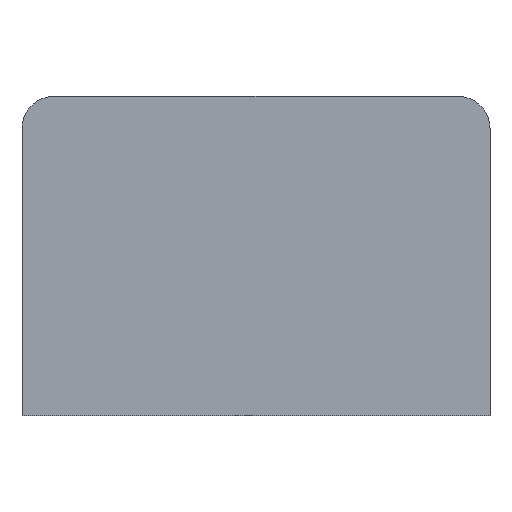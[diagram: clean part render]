
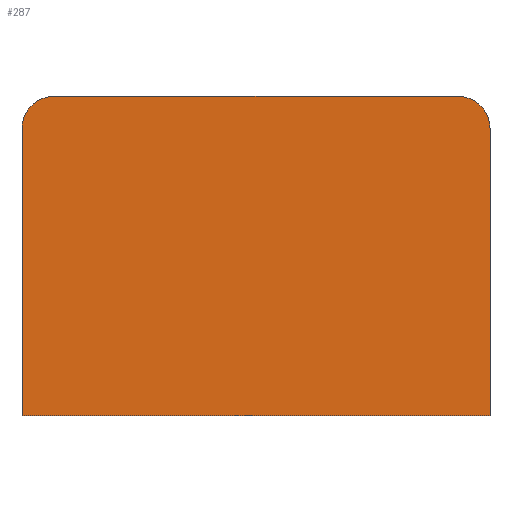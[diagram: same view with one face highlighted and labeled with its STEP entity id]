
A CAD part, front view. The second image highlights one B-rep face of the part: STEP entity #287.
In plain terms, the highlighted planar face has unit normal (0, -1, 0).
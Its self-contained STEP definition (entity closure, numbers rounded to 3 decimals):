
#20=PLANE('',#330);
#35=FACE_OUTER_BOUND('',#50,.T.);
#50=EDGE_LOOP('',(#247,#248,#249,#250,#251,#252));
#56=LINE('',#435,#81);
#65=LINE('',#467,#90);
#69=LINE('',#474,#94);
#76=LINE('',#492,#101);
#81=VECTOR('',#348,10.);
#90=VECTOR('',#377,10.);
#94=VECTOR('',#385,10.);
#101=VECTOR('',#406,10.);
#113=CIRCLE('',#325,7.5);
#115=CIRCLE('',#329,7.5);
#122=VERTEX_POINT('',#432);
#123=VERTEX_POINT('',#434);
#135=VERTEX_POINT('',#464);
#136=VERTEX_POINT('',#466);
#139=VERTEX_POINT('',#484);
#141=VERTEX_POINT('',#489);
#149=EDGE_CURVE('',#122,#123,#56,.T.);
#165=EDGE_CURVE('',#136,#135,#65,.F.);
#169=EDGE_CURVE('',#136,#122,#69,.T.);
#174=EDGE_CURVE('',#123,#139,#113,.T.);
#178=EDGE_CURVE('',#141,#139,#76,.T.);
#180=EDGE_CURVE('',#141,#135,#115,.T.);
#247=ORIENTED_EDGE('',*,*,#165,.T.);
#248=ORIENTED_EDGE('',*,*,#180,.F.);
#249=ORIENTED_EDGE('',*,*,#178,.T.);
#250=ORIENTED_EDGE('',*,*,#174,.F.);
#251=ORIENTED_EDGE('',*,*,#149,.F.);
#252=ORIENTED_EDGE('',*,*,#169,.F.);
#287=ADVANCED_FACE('',(#35),#20,.T.);
#325=AXIS2_PLACEMENT_3D('',#485,#399,#400);
#329=AXIS2_PLACEMENT_3D('',#495,#411,#412);
#330=AXIS2_PLACEMENT_3D('',#496,#413,#414);
#348=DIRECTION('',(0.,0.,1.));
#377=DIRECTION('',(0.,0.,-1.));
#385=DIRECTION('',(-1.,0.,0.));
#399=DIRECTION('center_axis',(0.,1.,0.));
#400=DIRECTION('ref_axis',(-0.707,0.,0.707));
#406=DIRECTION('',(-1.,0.,0.));
#411=DIRECTION('center_axis',(0.,1.,0.));
#412=DIRECTION('ref_axis',(0.707,0.,0.707));
#413=DIRECTION('center_axis',(0.,-1.,0.));
#414=DIRECTION('ref_axis',(0.,0.,1.));
#432=CARTESIAN_POINT('',(-15.,-28.767,-8.));
#434=CARTESIAN_POINT('',(-15.,-28.767,59.5));
#435=CARTESIAN_POINT('',(-15.,-28.767,19.5));
#464=CARTESIAN_POINT('',(95.,-28.767,59.5));
#466=CARTESIAN_POINT('',(95.,-28.767,-8.));
#467=CARTESIAN_POINT('',(95.,-28.767,4.5));
#474=CARTESIAN_POINT('',(27.25,-28.767,-8.));
#484=CARTESIAN_POINT('',(-7.5,-28.767,67.));
#485=CARTESIAN_POINT('Origin',(-7.5,-28.767,59.5));
#489=CARTESIAN_POINT('',(87.5,-28.767,67.));
#492=CARTESIAN_POINT('',(62.25,-28.767,67.));
#495=CARTESIAN_POINT('Origin',(87.5,-28.767,59.5));
#496=CARTESIAN_POINT('Origin',(45.,-28.767,17.));
